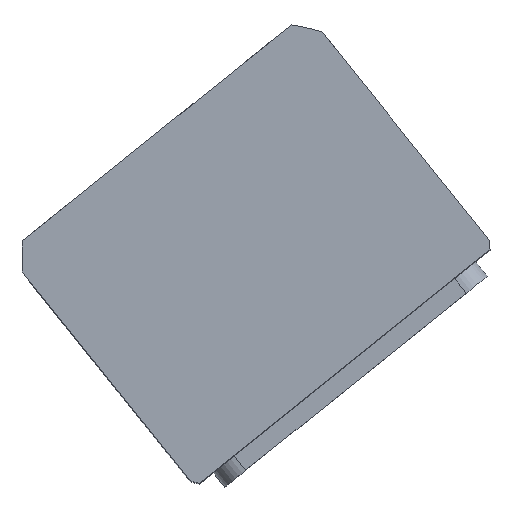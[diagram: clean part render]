
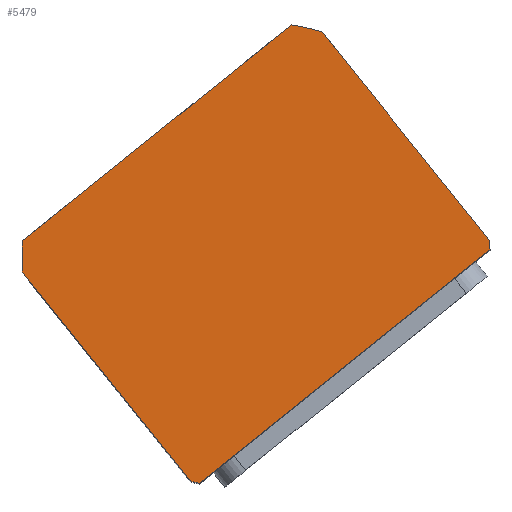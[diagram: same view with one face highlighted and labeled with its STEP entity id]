
A CAD part, top view. The second image highlights one B-rep face of the part: STEP entity #5479.
In plain terms, the highlighted planar face has unit normal (0, 0, 1) as drawn and (0, 0, -1) by its records, which use the part's own axes.
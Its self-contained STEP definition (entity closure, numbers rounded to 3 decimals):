
#222 = DIRECTION ( 'NONE',  ( 1., 0., 0. ) ) ;
#817 = DIRECTION ( 'NONE',  ( 1., 0., 0. ) ) ;
#1038 = CIRCLE ( 'NONE', #1561, 69.5 ) ;
#1515 = VERTEX_POINT ( 'NONE', #11674 ) ;
#1543 = CARTESIAN_POINT ( 'NONE',  ( -51.198, -44.5, 0. ) ) ;
#1561 = AXIS2_PLACEMENT_3D ( 'NONE', #21443, #10847, #222 ) ;
#1794 = VERTEX_POINT ( 'NONE', #1543 ) ;
#1818 = ORIENTED_EDGE ( 'NONE', *, *, #9542, .F. ) ;
#2350 = CARTESIAN_POINT ( 'NONE',  ( 57., 44.5, 0. ) ) ;
#2431 = DIRECTION ( 'NONE',  ( 0., 1., 0. ) ) ;
#3350 = LINE ( 'NONE', #12678, #9178 ) ;
#3383 = LINE ( 'NONE', #2350, #8644 ) ;
#3631 = EDGE_CURVE ( 'NONE', #16313, #11491, #3383, .T. ) ;
#4115 = EDGE_CURVE ( 'NONE', #1515, #11018, #4757, .T. ) ;
#4284 = CARTESIAN_POINT ( 'NONE',  ( 57., -37.265, 0. ) ) ;
#4480 = ORIENTED_EDGE ( 'NONE', *, *, #16361, .F. ) ;
#4509 = DIRECTION ( 'NONE',  ( 1., 0., 0. ) ) ;
#4757 = LINE ( 'NONE', #7732, #22483 ) ;
#5078 = EDGE_CURVE ( 'NONE', #17083, #1794, #1038, .T. ) ;
#5479 = ADVANCED_FACE ( 'NONE', ( #15435 ), #13338, .F. ) ;
#5876 = AXIS2_PLACEMENT_3D ( 'NONE', #20403, #15135, #4509 ) ;
#5951 = VECTOR ( 'NONE', #18274, 1000. ) ;
#6235 = DIRECTION ( 'NONE',  ( 0., 0., 1. ) ) ;
#6366 = CIRCLE ( 'NONE', #16405, 69.5 ) ;
#6501 = ORIENTED_EDGE ( 'NONE', *, *, #3631, .F. ) ;
#7732 = CARTESIAN_POINT ( 'NONE',  ( -57., 44.5, 0. ) ) ;
#7952 = CARTESIAN_POINT ( 'NONE',  ( 51.198, -44.5, 0. ) ) ;
#8644 = VECTOR ( 'NONE', #2431, 1000. ) ;
#8865 = CARTESIAN_POINT ( 'NONE',  ( -55.374, 44.5, 0. ) ) ;
#9009 = DIRECTION ( 'NONE',  ( 0., 0., 1. ) ) ;
#9056 = CARTESIAN_POINT ( 'NONE',  ( -57., -37.265, 0. ) ) ;
#9178 = VECTOR ( 'NONE', #21511, 1000. ) ;
#9329 = CARTESIAN_POINT ( 'NONE',  ( -57., 42.265, 0. ) ) ;
#9513 = VERTEX_POINT ( 'NONE', #7952 ) ;
#9542 = EDGE_CURVE ( 'NONE', #9513, #16313, #15102, .T. ) ;
#10019 = CARTESIAN_POINT ( 'NONE',  ( 57., 42.265, 0. ) ) ;
#10467 = EDGE_CURVE ( 'NONE', #1794, #9513, #20077, .T. ) ;
#10847 = DIRECTION ( 'NONE',  ( 0., 0., 1. ) ) ;
#10856 = ORIENTED_EDGE ( 'NONE', *, *, #4115, .F. ) ;
#11018 = VERTEX_POINT ( 'NONE', #8865 ) ;
#11439 = DIRECTION ( 'NONE',  ( 0., 0., 1. ) ) ;
#11491 = VERTEX_POINT ( 'NONE', #10019 ) ;
#11523 = ORIENTED_EDGE ( 'NONE', *, *, #5078, .F. ) ;
#11613 = EDGE_LOOP ( 'NONE', ( #4480, #6501, #1818, #15153, #11523, #13109, #17148, #10856 ) ) ;
#11674 = CARTESIAN_POINT ( 'NONE',  ( 55.374, 44.5, 0. ) ) ;
#11709 = CIRCLE ( 'NONE', #14576, 69.5 ) ;
#12678 = CARTESIAN_POINT ( 'NONE',  ( -57., 44.5, 0. ) ) ;
#13109 = ORIENTED_EDGE ( 'NONE', *, *, #18023, .F. ) ;
#13338 = PLANE ( 'NONE',  #5876 ) ;
#14576 = AXIS2_PLACEMENT_3D ( 'NONE', #22011, #11439, #817 ) ;
#14828 = AXIS2_PLACEMENT_3D ( 'NONE', #16856, #6235, #18625 ) ;
#15102 = CIRCLE ( 'NONE', #14828, 69.5 ) ;
#15135 = DIRECTION ( 'NONE',  ( 0., 0., 1. ) ) ;
#15153 = ORIENTED_EDGE ( 'NONE', *, *, #10467, .F. ) ;
#15435 = FACE_OUTER_BOUND ( 'NONE', #11613, .T. ) ;
#16313 = VERTEX_POINT ( 'NONE', #4284 ) ;
#16361 = EDGE_CURVE ( 'NONE', #11491, #1515, #11709, .T. ) ;
#16405 = AXIS2_PLACEMENT_3D ( 'NONE', #19600, #9009, #21399 ) ;
#16856 = CARTESIAN_POINT ( 'NONE',  ( 0., 2.5, 0. ) ) ;
#17083 = VERTEX_POINT ( 'NONE', #9056 ) ;
#17148 = ORIENTED_EDGE ( 'NONE', *, *, #18881, .F. ) ;
#18023 = EDGE_CURVE ( 'NONE', #22814, #17083, #3350, .T. ) ;
#18274 = DIRECTION ( 'NONE',  ( 1., 0., 0. ) ) ;
#18625 = DIRECTION ( 'NONE',  ( 1., 0., 0. ) ) ;
#18881 = EDGE_CURVE ( 'NONE', #11018, #22814, #6366, .T. ) ;
#19600 = CARTESIAN_POINT ( 'NONE',  ( 0., 2.5, 0. ) ) ;
#20053 = CARTESIAN_POINT ( 'NONE',  ( -57., -44.5, 0. ) ) ;
#20077 = LINE ( 'NONE', #20053, #5951 ) ;
#20403 = CARTESIAN_POINT ( 'NONE',  ( 0., 0., 0. ) ) ;
#21399 = DIRECTION ( 'NONE',  ( 1., 0., 0. ) ) ;
#21443 = CARTESIAN_POINT ( 'NONE',  ( 0., 2.5, 0. ) ) ;
#21511 = DIRECTION ( 'NONE',  ( 0., -1., 0. ) ) ;
#21746 = DIRECTION ( 'NONE',  ( -1., 0., 0. ) ) ;
#22011 = CARTESIAN_POINT ( 'NONE',  ( 0., 2.5, 0. ) ) ;
#22483 = VECTOR ( 'NONE', #21746, 1000. ) ;
#22814 = VERTEX_POINT ( 'NONE', #9329 ) ;
